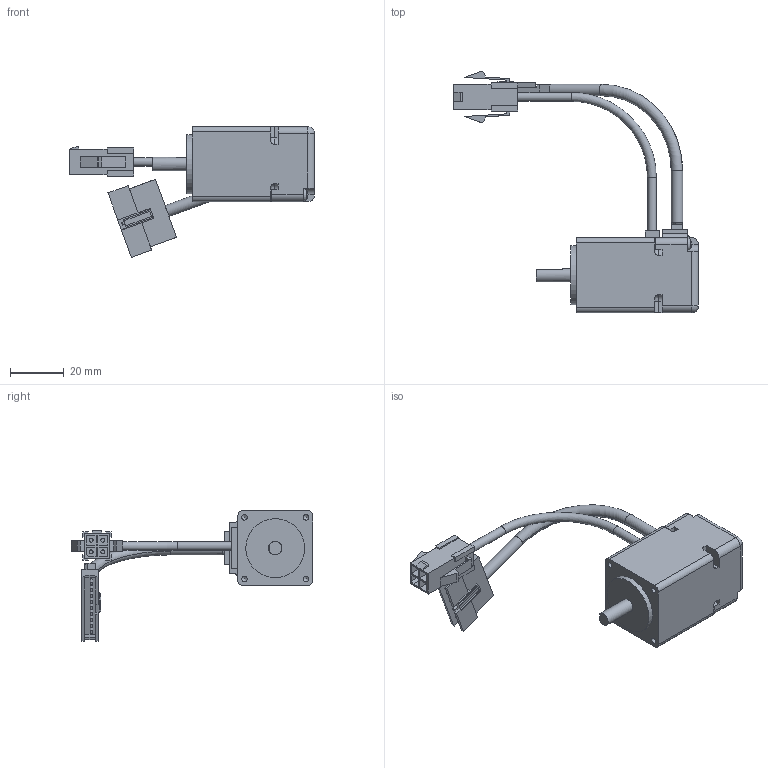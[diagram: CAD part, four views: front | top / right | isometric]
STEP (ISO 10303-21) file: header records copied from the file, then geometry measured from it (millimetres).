
FILE_DESCRIPTION(/* description */ (''),/* implementation_level */ '2;1');
FILE_NAME(/* name */ '\\EMN0D5F01\rp_inventor\RP Mechanical Design\Wiley\Updated Models\eCLM-S111F.stp',/* time_stamp */ '2016-10-27T15:30:44-07:00',/* author */ ('JDB'),/* organization */ ('Parker Hannifin Corp'),/* preprocessor_version */ 'ST-DEVELOPER v15.2',/* originating_system */ 'Autodesk Inventor 2014',/* authorisation */ '');
FILE_SCHEMA (('CONFIG_CONTROL_DESIGN'));
Length unit declared in the file: inch
Products named in the file (1): eCLM-S111F_sw
Bounding box: 91.38 x 90.11 x 48.79 mm (x, y, z)
Volume: 36825.9 mm3; surface area: 18733.5 mm2
Topology: 1 solids, 1 shells, 468 faces, 1197 edges, 759 vertices
Faces by surface type: plane 296, cylinder 112, cone 35, sphere 10, bspline 8, torus 7
Full cylindrical faces by diameter (mm): 1 x10, 1.5 x4, 1.75 x2, 2.05 x6, 2.3 x2, 2.5 x2, 2.6 x4, 3.3 x2, 4 x1, 4.3 x2, 5 x4, 5.5 x1, 6 x1, 9.2 x1, 17.5 x1, 22 x1
Entity records: 13582 total; most frequent: CARTESIAN_POINT 2532, DIRECTION 2324, ORIENTED_EDGE 2174, EDGE_CURVE 1087, AXIS2_PLACEMENT_3D 799, VERTEX_POINT 731, LINE 726, VECTOR 726
